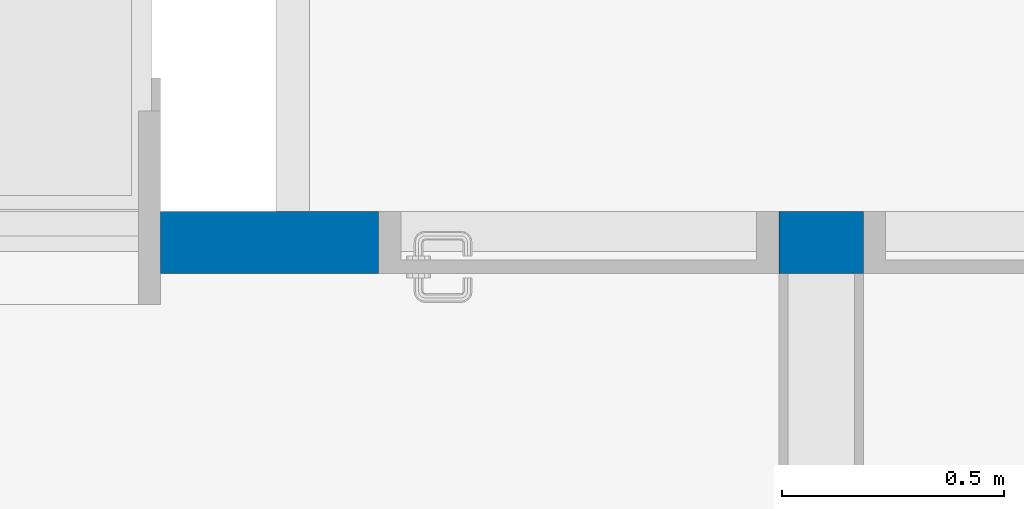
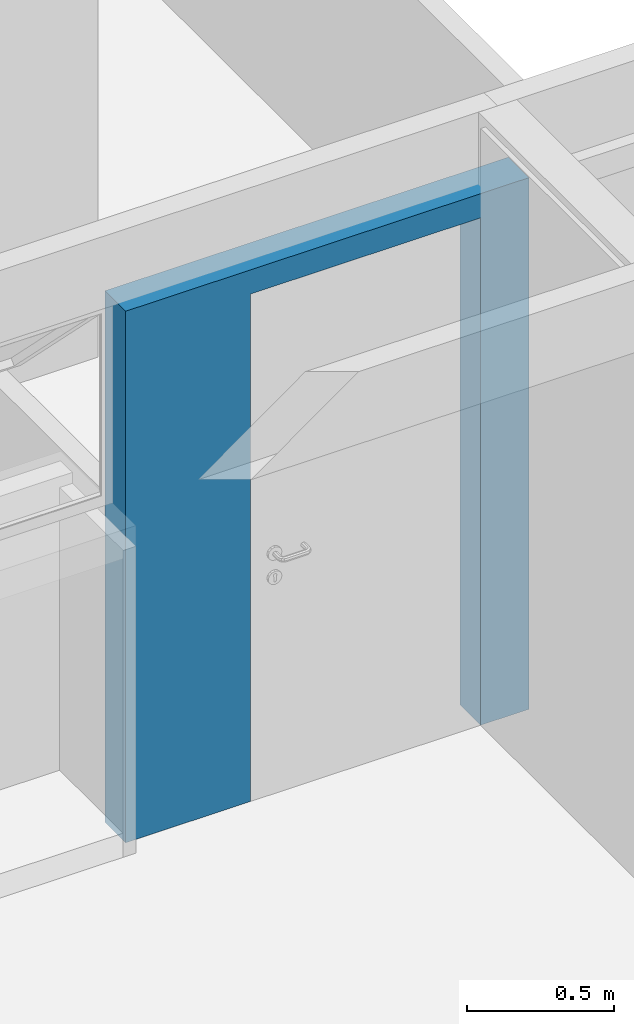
# One storey, part 13 of 37: 1 wall, 1 opening.
"""IFC2X3 building model written with IfcOpenShell, lengths in millimetres."""

from ifc_helpers import new_model, entity, si_unit, converted_unit, derived_unit, money_unit, direction, frame, origin_with_axes, origin_2d_with_axis, place, context, subcontext, project, spatial, polyline, rectangle, outline, extrude, material, layer, layer_set, layer_usage, type_object, element, save


model = new_model("IFC2X3")

# Units and contexts
model_context = context("Model", 3, precision=0.01, world=origin_with_axes(), true_north=direction((0.0, 1.0)))
body_context = subcontext(model_context, "Body", "Model", "MODEL_VIEW")
ifc_project = project(units=[si_unit("LENGTHUNIT", "METRE", prefix="MILLI"), si_unit("AREAUNIT", "SQUARE_METRE"), si_unit("VOLUMEUNIT", "CUBIC_METRE"), converted_unit("PLANEANGLEUNIT", "DEGREE", entity("IfcPlaneAngleMeasure", 0.0174532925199), si_unit("PLANEANGLEUNIT", "RADIAN"), dimensions=[0, 0, 0, 0, 0, 0, 0]), money_unit("USD"), converted_unit("TIMEUNIT", "Year", entity("IfcTimeMeasure", 31556926.0), si_unit("TIMEUNIT", "SECOND"), dimensions=[0, 0, 1, 0, 0, 0, 0]), si_unit("MASSUNIT", "GRAM", prefix="KILO"), si_unit("THERMODYNAMICTEMPERATUREUNIT", "DEGREE_CELSIUS"), si_unit("LUMINOUSINTENSITYUNIT", "LUMEN"), si_unit("ENERGYUNIT", "JOULE", prefix="MEGA"), derived_unit("THERMALCONDUCTANCEUNIT", [(si_unit("POWERUNIT", "WATT"), 1), (si_unit("LENGTHUNIT", "METRE"), -1), (si_unit("THERMODYNAMICTEMPERATUREUNIT", "KELVIN"), -1)]), derived_unit("SPECIFICHEATCAPACITYUNIT", [(si_unit("ENERGYUNIT", "JOULE"), 1), (si_unit("MASSUNIT", "GRAM", prefix="KILO"), -1), (si_unit("THERMODYNAMICTEMPERATUREUNIT", "KELVIN"), -1)]), derived_unit("MASSDENSITYUNIT", [(si_unit("MASSUNIT", "GRAM", prefix="KILO"), 1), (si_unit("VOLUMEUNIT", "CUBIC_METRE"), -1)])], contexts=[model_context])

# Site, building, storey
site_placement = place(None, origin_with_axes())
site = spatial("IfcSite", under=ifc_project, at=site_placement, Name="Local", CompositionType="ELEMENT")
building_placement = place(site_placement, origin_with_axes())
building = spatial("IfcBuilding", under=site, at=building_placement, Name="Construção", CompositionType="ELEMENT")
storey_placement = place(building_placement, frame((0.0, 0.0, 5300.0), z_axis=(0.0, 0.0, 1.0), x_axis=(1.0, 0.0, 0.0)))
storey = spatial("IfcBuildingStorey", under=building, at=storey_placement, Name="Terceiro Pavimento", CompositionType="ELEMENT", Elevation=5300.0)

# Wall, opening
ifc_material = material(Name="GENÉRICO - VEDAÇÃO EXTERNA")
ifc_layer = layer(ifc_material, 140.0, ventilated="UNKNOWN")
ifc_layer_set = layer_set([ifc_layer], Name="GENÉRICO - VEDAÇÃO EXTERNA 140")
ifc_layer_usage = layer_usage(ifc_layer_set, "AXIS2", "NEGATIVE", 0.0)
wall_type = type_object("IfcWallType", Name="GENÉRICO - VEDAÇÃO EXTERNA 140", PredefinedType="NOTDEFINED")
wall_placement = place(storey_placement, frame((7480.0, 8125.0, 0.0), z_axis=(0.0, 0.0, 1.0), x_axis=(-1.0, 0.0, 0.0)))
wall = element("IfcWallStandardCase", 1, at=wall_placement, inside=storey, type_object=wall_type, material=ifc_layer_usage, Name="APTO9-PAREDE-004", context=body_context, shape_type="SweptSolid", body=[
    extrude(outline(polyline([(0.0, -140.0), (1580.0, -140.0), (1580.0, 0.0), (0.0, 0.0), (0.0, -140.0)])), origin_with_axes(), (0.0, 0.0, 1.0), 2200.0),
])
opening_placement = place(wall_placement, frame((640.0, 0.0, 0.0), z_axis=(0.0, 0.0, 1.0), x_axis=(1.0, 0.0, 0.0)))
element("IfcOpeningElement", 2, at=opening_placement, cuts=wall, Name="APTO9-PORTA-004", context=body_context, shape_type="SweptSolid", body=[
    extrude(rectangle(XDim=900.0, YDim=2100.0, at=origin_2d_with_axis()), frame((0.0, 140.0, 1050.0), z_axis=(0.0, 1.0, 0.0), x_axis=(-1.0, 0.0, 0.0)), (0.0, 0.0, -1.0), 420.0),
])

save(model, "model.ifc")
